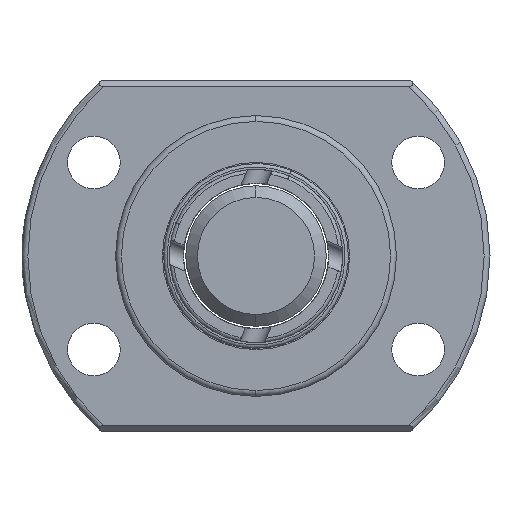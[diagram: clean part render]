
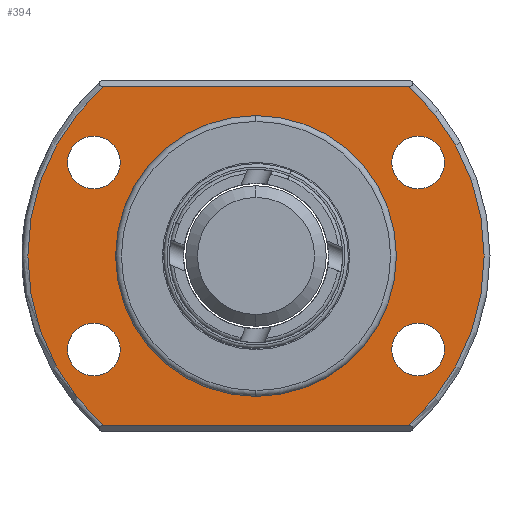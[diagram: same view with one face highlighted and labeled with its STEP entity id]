
A CAD part, left-side view. The second image highlights one B-rep face of the part: STEP entity #394.
In plain terms, the highlighted planar face has unit normal (-1, 0, 0).
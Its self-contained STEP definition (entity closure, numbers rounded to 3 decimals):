
#11 = ORIENTED_EDGE ( 'NONE', *, *, #898, .T. ) ;
#57 = ORIENTED_EDGE ( 'NONE', *, *, #376, .T. ) ;
#60 = AXIS2_PLACEMENT_3D ( 'NONE', #562, #879, #1178 ) ;
#114 = DIRECTION ( 'NONE',  ( 0., 0., -1. ) ) ;
#138 = CIRCLE ( 'NONE', #1082, 2.25 ) ;
#142 = CARTESIAN_POINT ( 'NONE',  ( 0., 0., 0. ) ) ;
#155 = AXIS2_PLACEMENT_3D ( 'NONE', #725, #1876, #114 ) ;
#161 = VERTEX_POINT ( 'NONE', #3171 ) ;
#297 = AXIS2_PLACEMENT_3D ( 'NONE', #2637, #902, #875 ) ;
#372 = ORIENTED_EDGE ( 'NONE', *, *, #1281, .F. ) ;
#376 = EDGE_CURVE ( 'NONE', #708, #3655, #1332, .T. ) ;
#381 = ORIENTED_EDGE ( 'NONE', *, *, #2561, .T. ) ;
#385 = EDGE_LOOP ( 'NONE', ( #2402, #2297 ) ) ;
#394 = ADVANCED_FACE ( 'NONE', ( #1797, #1020, #1294, #1159, #473, #3274 ), #2507, .F. ) ;
#439 = VERTEX_POINT ( 'NONE', #3380 ) ;
#443 = CARTESIAN_POINT ( 'NONE',  ( 0., -13.856, 8. ) ) ;
#444 = VERTEX_POINT ( 'NONE', #1314 ) ;
#448 = EDGE_CURVE ( 'NONE', #2944, #1810, #138, .T. ) ;
#473 = FACE_BOUND ( 'NONE', #2354, .T. ) ;
#490 = DIRECTION ( 'NONE',  ( 0., 0., -1. ) ) ;
#492 = VERTEX_POINT ( 'NONE', #496 ) ;
#496 = CARTESIAN_POINT ( 'NONE',  ( 0., 13.038, -14.5 ) ) ;
#507 = DIRECTION ( 'NONE',  ( 0., -1., 0. ) ) ;
#511 = AXIS2_PLACEMENT_3D ( 'NONE', #3679, #1063, #1047 ) ;
#515 = EDGE_CURVE ( 'NONE', #492, #439, #3079, .T. ) ;
#552 = DIRECTION ( 'NONE',  ( 0., 0., -1. ) ) ;
#560 = CIRCLE ( 'NONE', #3237, 19.5 ) ;
#562 = CARTESIAN_POINT ( 'NONE',  ( 0., 13.856, 8. ) ) ;
#600 = CIRCLE ( 'NONE', #297, 2.25 ) ;
#614 = ORIENTED_EDGE ( 'NONE', *, *, #515, .T. ) ;
#622 = CARTESIAN_POINT ( 'NONE',  ( 0., 0., 0. ) ) ;
#656 = EDGE_LOOP ( 'NONE', ( #57, #11 ) ) ;
#700 = ORIENTED_EDGE ( 'NONE', *, *, #3316, .T. ) ;
#708 = VERTEX_POINT ( 'NONE', #2203 ) ;
#725 = CARTESIAN_POINT ( 'NONE',  ( 0., 13.856, 8. ) ) ;
#727 = CIRCLE ( 'NONE', #3635, 12. ) ;
#755 = CARTESIAN_POINT ( 'NONE',  ( 0., -13.856, -8. ) ) ;
#780 = CARTESIAN_POINT ( 'NONE',  ( 0., -12.46, -14.5 ) ) ;
#786 = ORIENTED_EDGE ( 'NONE', *, *, #3385, .T. ) ;
#820 = DIRECTION ( 'NONE',  ( -1., 0., 0. ) ) ;
#875 = DIRECTION ( 'NONE',  ( 0., 0., -1. ) ) ;
#879 = DIRECTION ( 'NONE',  ( 1., 0., 0. ) ) ;
#898 = EDGE_CURVE ( 'NONE', #3655, #708, #1878, .T. ) ;
#902 = DIRECTION ( 'NONE',  ( 1., 0., 0. ) ) ;
#941 = EDGE_LOOP ( 'NONE', ( #786, #2581 ) ) ;
#960 = EDGE_CURVE ( 'NONE', #444, #492, #3307, .T. ) ;
#966 = DIRECTION ( 'NONE',  ( 0., 0., -1. ) ) ;
#1020 = FACE_BOUND ( 'NONE', #385, .T. ) ;
#1035 = DIRECTION ( 'NONE',  ( 0., 0., -1. ) ) ;
#1044 = DIRECTION ( 'NONE',  ( 0., 0., -1. ) ) ;
#1047 = DIRECTION ( 'NONE',  ( 0., 0., -1. ) ) ;
#1049 = AXIS2_PLACEMENT_3D ( 'NONE', #622, #3574, #966 ) ;
#1055 = CARTESIAN_POINT ( 'NONE',  ( 0., 0., 0. ) ) ;
#1063 = DIRECTION ( 'NONE',  ( 1., 0., 0. ) ) ;
#1082 = AXIS2_PLACEMENT_3D ( 'NONE', #755, #1607, #3328 ) ;
#1159 = FACE_BOUND ( 'NONE', #656, .T. ) ;
#1164 = VERTEX_POINT ( 'NONE', #2729 ) ;
#1178 = DIRECTION ( 'NONE',  ( 0., 0., -1. ) ) ;
#1194 = AXIS2_PLACEMENT_3D ( 'NONE', #2234, #2771, #490 ) ;
#1219 = DIRECTION ( 'NONE',  ( 1., 0., 0. ) ) ;
#1226 = DIRECTION ( 'NONE',  ( 0., 0., -1. ) ) ;
#1260 = CARTESIAN_POINT ( 'NONE',  ( 0., 0., 12. ) ) ;
#1281 = EDGE_CURVE ( 'NONE', #1901, #1164, #1790, .T. ) ;
#1294 = FACE_BOUND ( 'NONE', #3220, .T. ) ;
#1314 = CARTESIAN_POINT ( 'NONE',  ( 0., 13.038, 14.5 ) ) ;
#1331 = DIRECTION ( 'NONE',  ( 0., 0., -1. ) ) ;
#1332 = CIRCLE ( 'NONE', #155, 2.25 ) ;
#1389 = EDGE_CURVE ( 'NONE', #2430, #2444, #600, .T. ) ;
#1424 = EDGE_LOOP ( 'NONE', ( #2676, #614, #2674, #700 ) ) ;
#1544 = AXIS2_PLACEMENT_3D ( 'NONE', #443, #2773, #1035 ) ;
#1582 = VERTEX_POINT ( 'NONE', #3770 ) ;
#1607 = DIRECTION ( 'NONE',  ( 1., 0., 0. ) ) ;
#1613 = DIRECTION ( 'NONE',  ( -1., 0., 0. ) ) ;
#1614 = CARTESIAN_POINT ( 'NONE',  ( 0., 0., 0. ) ) ;
#1628 = EDGE_CURVE ( 'NONE', #439, #161, #560, .T. ) ;
#1642 = CARTESIAN_POINT ( 'NONE',  ( 0., -13.856, -5.75 ) ) ;
#1733 = VECTOR ( 'NONE', #2781, 1000. ) ;
#1790 = CIRCLE ( 'NONE', #2979, 12. ) ;
#1797 = FACE_BOUND ( 'NONE', #941, .T. ) ;
#1810 = VERTEX_POINT ( 'NONE', #2641 ) ;
#1876 = DIRECTION ( 'NONE',  ( 1., 0., 0. ) ) ;
#1878 = CIRCLE ( 'NONE', #60, 2.25 ) ;
#1901 = VERTEX_POINT ( 'NONE', #1260 ) ;
#2008 = VERTEX_POINT ( 'NONE', #3710 ) ;
#2072 = EDGE_CURVE ( 'NONE', #2008, #1582, #2379, .T. ) ;
#2125 = AXIS2_PLACEMENT_3D ( 'NONE', #3544, #1219, #1226 ) ;
#2157 = CIRCLE ( 'NONE', #2125, 2.25 ) ;
#2197 = DIRECTION ( 'NONE',  ( 1., 0., 0. ) ) ;
#2203 = CARTESIAN_POINT ( 'NONE',  ( 0., 13.856, 5.75 ) ) ;
#2209 = ORIENTED_EDGE ( 'NONE', *, *, #1389, .T. ) ;
#2234 = CARTESIAN_POINT ( 'NONE',  ( 0., -13.856, -8. ) ) ;
#2297 = ORIENTED_EDGE ( 'NONE', *, *, #2072, .T. ) ;
#2303 = CARTESIAN_POINT ( 'NONE',  ( 0., 0., 0. ) ) ;
#2354 = EDGE_LOOP ( 'NONE', ( #3393, #372 ) ) ;
#2379 = CIRCLE ( 'NONE', #1544, 2.25 ) ;
#2402 = ORIENTED_EDGE ( 'NONE', *, *, #2893, .T. ) ;
#2423 = CIRCLE ( 'NONE', #511, 2.25 ) ;
#2430 = VERTEX_POINT ( 'NONE', #3208 ) ;
#2444 = VERTEX_POINT ( 'NONE', #3184 ) ;
#2448 = CARTESIAN_POINT ( 'NONE',  ( 0., 12.46, 14.5 ) ) ;
#2481 = VECTOR ( 'NONE', #507, 1000. ) ;
#2507 = PLANE ( 'NONE',  #2821 ) ;
#2516 = CIRCLE ( 'NONE', #1194, 2.25 ) ;
#2561 = EDGE_CURVE ( 'NONE', #2444, #2430, #2157, .T. ) ;
#2581 = ORIENTED_EDGE ( 'NONE', *, *, #448, .T. ) ;
#2637 = CARTESIAN_POINT ( 'NONE',  ( 0., 13.856, -8. ) ) ;
#2641 = CARTESIAN_POINT ( 'NONE',  ( 0., -13.856, -10.25 ) ) ;
#2674 = ORIENTED_EDGE ( 'NONE', *, *, #1628, .T. ) ;
#2676 = ORIENTED_EDGE ( 'NONE', *, *, #960, .T. ) ;
#2698 = LINE ( 'NONE', #2448, #1733 ) ;
#2729 = CARTESIAN_POINT ( 'NONE',  ( 0., 0., -12. ) ) ;
#2771 = DIRECTION ( 'NONE',  ( 1., 0., 0. ) ) ;
#2773 = DIRECTION ( 'NONE',  ( 1., 0., 0. ) ) ;
#2781 = DIRECTION ( 'NONE',  ( 0., 1., 0. ) ) ;
#2821 = AXIS2_PLACEMENT_3D ( 'NONE', #142, #2197, #3669 ) ;
#2893 = EDGE_CURVE ( 'NONE', #1582, #2008, #2423, .T. ) ;
#2944 = VERTEX_POINT ( 'NONE', #1642 ) ;
#2979 = AXIS2_PLACEMENT_3D ( 'NONE', #1055, #1613, #1044 ) ;
#3079 = LINE ( 'NONE', #780, #2481 ) ;
#3171 = CARTESIAN_POINT ( 'NONE',  ( 0., -13.038, 14.5 ) ) ;
#3184 = CARTESIAN_POINT ( 'NONE',  ( 0., 13.856, -10.25 ) ) ;
#3208 = CARTESIAN_POINT ( 'NONE',  ( 0., 13.856, -5.75 ) ) ;
#3220 = EDGE_LOOP ( 'NONE', ( #381, #2209 ) ) ;
#3237 = AXIS2_PLACEMENT_3D ( 'NONE', #2303, #820, #552 ) ;
#3274 = FACE_OUTER_BOUND ( 'NONE', #1424, .T. ) ;
#3307 = CIRCLE ( 'NONE', #1049, 19.5 ) ;
#3316 = EDGE_CURVE ( 'NONE', #161, #444, #2698, .T. ) ;
#3328 = DIRECTION ( 'NONE',  ( 0., 0., -1. ) ) ;
#3380 = CARTESIAN_POINT ( 'NONE',  ( 0., -13.038, -14.5 ) ) ;
#3385 = EDGE_CURVE ( 'NONE', #1810, #2944, #2516, .T. ) ;
#3393 = ORIENTED_EDGE ( 'NONE', *, *, #3395, .F. ) ;
#3395 = EDGE_CURVE ( 'NONE', #1164, #1901, #727, .T. ) ;
#3544 = CARTESIAN_POINT ( 'NONE',  ( 0., 13.856, -8. ) ) ;
#3574 = DIRECTION ( 'NONE',  ( -1., 0., 0. ) ) ;
#3635 = AXIS2_PLACEMENT_3D ( 'NONE', #1614, #3689, #1331 ) ;
#3640 = CARTESIAN_POINT ( 'NONE',  ( 0., 13.856, 10.25 ) ) ;
#3655 = VERTEX_POINT ( 'NONE', #3640 ) ;
#3669 = DIRECTION ( 'NONE',  ( 0., 0., -1. ) ) ;
#3679 = CARTESIAN_POINT ( 'NONE',  ( 0., -13.856, 8. ) ) ;
#3689 = DIRECTION ( 'NONE',  ( -1., 0., 0. ) ) ;
#3710 = CARTESIAN_POINT ( 'NONE',  ( 0., -13.856, 10.25 ) ) ;
#3770 = CARTESIAN_POINT ( 'NONE',  ( 0., -13.856, 5.75 ) ) ;
